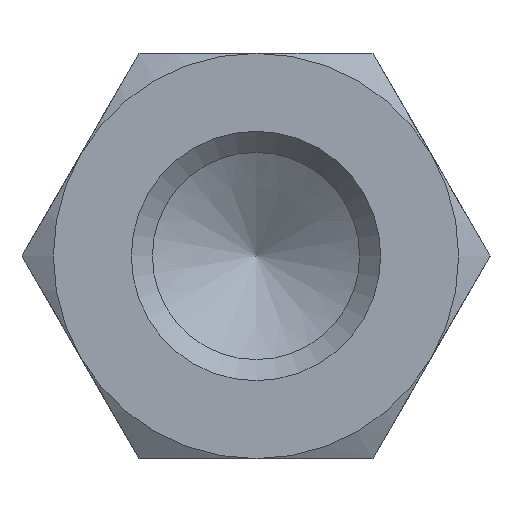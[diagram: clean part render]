
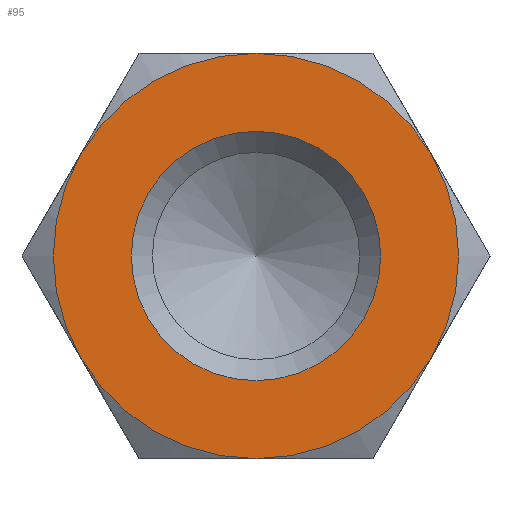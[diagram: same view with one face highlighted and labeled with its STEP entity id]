
A CAD part, left-side view. The second image highlights one B-rep face of the part: STEP entity #95.
In plain terms, the highlighted planar face has unit normal (-1, 0, 0).
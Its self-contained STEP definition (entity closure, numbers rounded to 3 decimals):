
#95 = ADVANCED_FACE( '', ( #147, #148 ), #149, .F. );
#147 = FACE_OUTER_BOUND( '', #206, .T. );
#148 = FACE_BOUND( '', #207, .T. );
#149 = PLANE( '', #208 );
#206 = EDGE_LOOP( '', ( #356, #357, #358, #359, #360, #361 ) );
#207 = EDGE_LOOP( '', ( #362 ) );
#208 = AXIS2_PLACEMENT_3D( '', #363, #364, #365 );
#356 = ORIENTED_EDGE( '', *, *, #440, .F. );
#357 = ORIENTED_EDGE( '', *, *, #425, .F. );
#358 = ORIENTED_EDGE( '', *, *, #441, .F. );
#359 = ORIENTED_EDGE( '', *, *, #437, .F. );
#360 = ORIENTED_EDGE( '', *, *, #442, .F. );
#361 = ORIENTED_EDGE( '', *, *, #443, .F. );
#362 = ORIENTED_EDGE( '', *, *, #439, .T. );
#363 = CARTESIAN_POINT( '', ( -70., 0., 0. ) );
#364 = DIRECTION( '', ( 1., 0., 0. ) );
#365 = DIRECTION( '', ( 0., 0., -1. ) );
#425 = EDGE_CURVE( '', #495, #493, #497, .T. );
#437 = EDGE_CURVE( '', #447, #506, #513, .T. );
#439 = EDGE_CURVE( '', #516, #516, #517, .T. );
#440 = EDGE_CURVE( '', #493, #486, #518, .T. );
#441 = EDGE_CURVE( '', #506, #495, #519, .T. );
#442 = EDGE_CURVE( '', #481, #447, #520, .T. );
#443 = EDGE_CURVE( '', #486, #481, #521, .T. );
#447 = VERTEX_POINT( '', #525 );
#481 = VERTEX_POINT( '', #607 );
#486 = VERTEX_POINT( '', #623 );
#493 = VERTEX_POINT( '', #650 );
#495 = VERTEX_POINT( '', #657 );
#497 = CIRCLE( '', #664, 6.5 );
#506 = VERTEX_POINT( '', #690 );
#513 = CIRCLE( '', #733, 6.5 );
#516 = VERTEX_POINT( '', #736 );
#517 = CIRCLE( '', #737, 4. );
#518 = CIRCLE( '', #738, 6.5 );
#519 = CIRCLE( '', #739, 6.5 );
#520 = CIRCLE( '', #740, 6.5 );
#521 = CIRCLE( '', #741, 6.5 );
#525 = CARTESIAN_POINT( '', ( -70., -5.629, 3.25 ) );
#607 = CARTESIAN_POINT( '', ( -70., 0., 6.5 ) );
#623 = CARTESIAN_POINT( '', ( -70., 5.629, 3.25 ) );
#650 = CARTESIAN_POINT( '', ( -70., 5.629, -3.25 ) );
#657 = CARTESIAN_POINT( '', ( -70., 0., -6.5 ) );
#664 = AXIS2_PLACEMENT_3D( '', #776, #777, #778 );
#690 = CARTESIAN_POINT( '', ( -70., -5.629, -3.25 ) );
#733 = AXIS2_PLACEMENT_3D( '', #781, #782, #783 );
#736 = CARTESIAN_POINT( '', ( -70., 0., -4. ) );
#737 = AXIS2_PLACEMENT_3D( '', #787, #788, #789 );
#738 = AXIS2_PLACEMENT_3D( '', #790, #791, #792 );
#739 = AXIS2_PLACEMENT_3D( '', #793, #794, #795 );
#740 = AXIS2_PLACEMENT_3D( '', #796, #797, #798 );
#741 = AXIS2_PLACEMENT_3D( '', #799, #800, #801 );
#776 = CARTESIAN_POINT( '', ( -70., 0., 0. ) );
#777 = DIRECTION( '', ( 1., 0., 0. ) );
#778 = DIRECTION( '', ( 0., 0., -1. ) );
#781 = CARTESIAN_POINT( '', ( -70., 0., 0. ) );
#782 = DIRECTION( '', ( 1., 0., 0. ) );
#783 = DIRECTION( '', ( 0., 0., -1. ) );
#787 = CARTESIAN_POINT( '', ( -70., 0., 0. ) );
#788 = DIRECTION( '', ( 1., 0., 0. ) );
#789 = DIRECTION( '', ( 0., 0., -1. ) );
#790 = CARTESIAN_POINT( '', ( -70., 0., 0. ) );
#791 = DIRECTION( '', ( 1., 0., 0. ) );
#792 = DIRECTION( '', ( 0., 0., -1. ) );
#793 = CARTESIAN_POINT( '', ( -70., 0., 0. ) );
#794 = DIRECTION( '', ( 1., 0., 0. ) );
#795 = DIRECTION( '', ( 0., 0., -1. ) );
#796 = CARTESIAN_POINT( '', ( -70., 0., 0. ) );
#797 = DIRECTION( '', ( 1., 0., 0. ) );
#798 = DIRECTION( '', ( 0., 0., -1. ) );
#799 = CARTESIAN_POINT( '', ( -70., 0., 0. ) );
#800 = DIRECTION( '', ( 1., 0., 0. ) );
#801 = DIRECTION( '', ( 0., 0., -1. ) );
